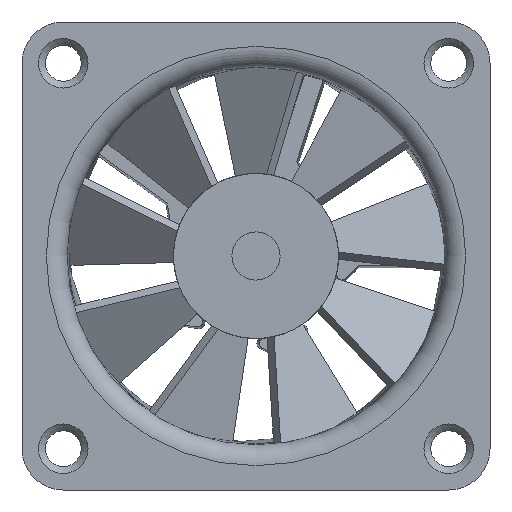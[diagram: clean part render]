
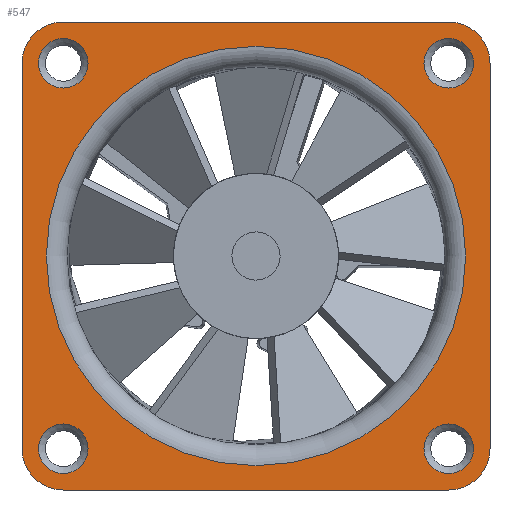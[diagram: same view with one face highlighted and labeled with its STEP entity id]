
A CAD part, left-side view. The second image highlights one B-rep face of the part: STEP entity #547.
In plain terms, the highlighted planar face has unit normal (-1, 0, 0).
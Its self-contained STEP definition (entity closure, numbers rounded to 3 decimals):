
#547=ADVANCED_FACE('',(#1316,#1317,#1318,#1319,#1320,#1321),#701,.T.);
#701=PLANE('',#3591);
#878=LINE('',#5503,#1099);
#879=LINE('',#5508,#1100);
#880=LINE('',#5512,#1101);
#881=LINE('',#5516,#1102);
#1099=VECTOR('',#4142,1.);
#1100=VECTOR('',#4145,1.);
#1101=VECTOR('',#4148,1.);
#1102=VECTOR('',#4151,1.);
#1316=FACE_BOUND('',#1451,.T.);
#1317=FACE_BOUND('',#1452,.T.);
#1318=FACE_BOUND('',#1453,.T.);
#1319=FACE_BOUND('',#1454,.T.);
#1320=FACE_BOUND('',#1455,.T.);
#1321=FACE_BOUND('',#1456,.T.);
#1451=EDGE_LOOP('',(#1885));
#1452=EDGE_LOOP('',(#1886));
#1453=EDGE_LOOP('',(#1887));
#1454=EDGE_LOOP('',(#1888));
#1455=EDGE_LOOP('',(#1889));
#1456=EDGE_LOOP('',(#1890,#1891,#1892,#1893,#1894,#1895,#1896,#1897));
#1885=ORIENTED_EDGE('',*,*,#3081,.T.);
#1886=ORIENTED_EDGE('',*,*,#3082,.T.);
#1887=ORIENTED_EDGE('',*,*,#3083,.T.);
#1888=ORIENTED_EDGE('',*,*,#3084,.T.);
#1889=ORIENTED_EDGE('',*,*,#3085,.T.);
#1890=ORIENTED_EDGE('',*,*,#3086,.F.);
#1891=ORIENTED_EDGE('',*,*,#3087,.T.);
#1892=ORIENTED_EDGE('',*,*,#3088,.F.);
#1893=ORIENTED_EDGE('',*,*,#3089,.T.);
#1894=ORIENTED_EDGE('',*,*,#3090,.F.);
#1895=ORIENTED_EDGE('',*,*,#3091,.T.);
#1896=ORIENTED_EDGE('',*,*,#3092,.F.);
#1897=ORIENTED_EDGE('',*,*,#3093,.T.);
#2734=VERTEX_POINT('',#5494);
#2735=VERTEX_POINT('',#5496);
#2736=VERTEX_POINT('',#5498);
#2737=VERTEX_POINT('',#5500);
#2738=VERTEX_POINT('',#5502);
#2739=VERTEX_POINT('',#5504);
#2740=VERTEX_POINT('',#5505);
#2741=VERTEX_POINT('',#5507);
#2742=VERTEX_POINT('',#5509);
#2743=VERTEX_POINT('',#5511);
#2744=VERTEX_POINT('',#5513);
#2745=VERTEX_POINT('',#5515);
#2746=VERTEX_POINT('',#5517);
#3081=EDGE_CURVE('',#2734,#2734,#3401,.T.);
#3082=EDGE_CURVE('',#2735,#2735,#3402,.T.);
#3083=EDGE_CURVE('',#2736,#2736,#3403,.T.);
#3084=EDGE_CURVE('',#2737,#2737,#3404,.T.);
#3085=EDGE_CURVE('',#2738,#2738,#3405,.T.);
#3086=EDGE_CURVE('',#2739,#2740,#878,.T.);
#3087=EDGE_CURVE('',#2739,#2741,#3406,.T.);
#3088=EDGE_CURVE('',#2742,#2741,#879,.T.);
#3089=EDGE_CURVE('',#2742,#2743,#3407,.T.);
#3090=EDGE_CURVE('',#2744,#2743,#880,.T.);
#3091=EDGE_CURVE('',#2744,#2745,#3408,.T.);
#3092=EDGE_CURVE('',#2746,#2745,#881,.T.);
#3093=EDGE_CURVE('',#2746,#2740,#3409,.T.);
#3401=CIRCLE('',#3582,15.232);
#3402=CIRCLE('',#3583,1.8);
#3403=CIRCLE('',#3584,1.8);
#3404=CIRCLE('',#3585,1.8);
#3405=CIRCLE('',#3586,1.8);
#3406=CIRCLE('',#3587,3.);
#3407=CIRCLE('',#3588,3.);
#3408=CIRCLE('',#3589,3.);
#3409=CIRCLE('',#3590,3.);
#3582=AXIS2_PLACEMENT_3D('',#5493,#4132,#4133);
#3583=AXIS2_PLACEMENT_3D('',#5495,#4134,#4135);
#3584=AXIS2_PLACEMENT_3D('',#5497,#4136,#4137);
#3585=AXIS2_PLACEMENT_3D('',#5499,#4138,#4139);
#3586=AXIS2_PLACEMENT_3D('',#5501,#4140,#4141);
#3587=AXIS2_PLACEMENT_3D('',#5506,#4143,#4144);
#3588=AXIS2_PLACEMENT_3D('',#5510,#4146,#4147);
#3589=AXIS2_PLACEMENT_3D('',#5514,#4149,#4150);
#3590=AXIS2_PLACEMENT_3D('',#5518,#4152,#4153);
#3591=AXIS2_PLACEMENT_3D('',#5519,#4154,#4155);
#4132=DIRECTION('',(1.,0.,0.));
#4133=DIRECTION('',(0.,0.,1.));
#4134=DIRECTION('',(1.,0.,0.));
#4135=DIRECTION('',(0.,0.,1.));
#4136=DIRECTION('',(1.,0.,0.));
#4137=DIRECTION('',(0.,0.,1.));
#4138=DIRECTION('',(1.,0.,0.));
#4139=DIRECTION('',(0.,0.,1.));
#4140=DIRECTION('',(1.,0.,0.));
#4141=DIRECTION('',(0.,0.,1.));
#4142=DIRECTION('',(0.,0.,-1.));
#4143=DIRECTION('',(-1.,0.,0.));
#4144=DIRECTION('',(0.,0.,1.));
#4145=DIRECTION('',(0.,-1.,0.));
#4146=DIRECTION('',(-1.,0.,0.));
#4147=DIRECTION('',(0.,0.,1.));
#4148=DIRECTION('',(0.,0.,1.));
#4149=DIRECTION('',(-1.,0.,0.));
#4150=DIRECTION('',(0.,0.,1.));
#4151=DIRECTION('',(0.,1.,0.));
#4152=DIRECTION('',(-1.,0.,0.));
#4153=DIRECTION('',(0.,0.,1.));
#4154=DIRECTION('',(-1.,0.,0.));
#4155=DIRECTION('',(0.,0.,-1.));
#5493=CARTESIAN_POINT('',(-89.392,31.182,16.837));
#5494=CARTESIAN_POINT('',(-89.392,31.182,32.07));
#5495=CARTESIAN_POINT('',(-89.392,17.182,30.837));
#5496=CARTESIAN_POINT('',(-89.392,17.182,32.637));
#5497=CARTESIAN_POINT('',(-89.392,17.182,2.837));
#5498=CARTESIAN_POINT('',(-89.392,17.182,4.637));
#5499=CARTESIAN_POINT('',(-89.392,45.182,2.837));
#5500=CARTESIAN_POINT('',(-89.392,45.182,4.637));
#5501=CARTESIAN_POINT('',(-89.392,45.182,30.837));
#5502=CARTESIAN_POINT('',(-89.392,45.182,32.637));
#5503=CARTESIAN_POINT('',(-89.392,14.182,33.837));
#5504=CARTESIAN_POINT('',(-89.392,14.182,30.837));
#5505=CARTESIAN_POINT('',(-89.392,14.182,2.837));
#5506=CARTESIAN_POINT('',(-89.392,17.182,30.837));
#5507=CARTESIAN_POINT('',(-89.392,17.182,33.837));
#5508=CARTESIAN_POINT('',(-89.392,48.182,33.837));
#5509=CARTESIAN_POINT('',(-89.392,45.182,33.837));
#5510=CARTESIAN_POINT('',(-89.392,45.182,30.837));
#5511=CARTESIAN_POINT('',(-89.392,48.182,30.837));
#5512=CARTESIAN_POINT('',(-89.392,48.182,-0.163));
#5513=CARTESIAN_POINT('',(-89.392,48.182,2.837));
#5514=CARTESIAN_POINT('',(-89.392,45.182,2.837));
#5515=CARTESIAN_POINT('',(-89.392,45.182,-0.163));
#5516=CARTESIAN_POINT('',(-89.392,14.182,-0.163));
#5517=CARTESIAN_POINT('',(-89.392,17.182,-0.163));
#5518=CARTESIAN_POINT('',(-89.392,17.182,2.837));
#5519=CARTESIAN_POINT('',(-89.392,44.932,16.837));
